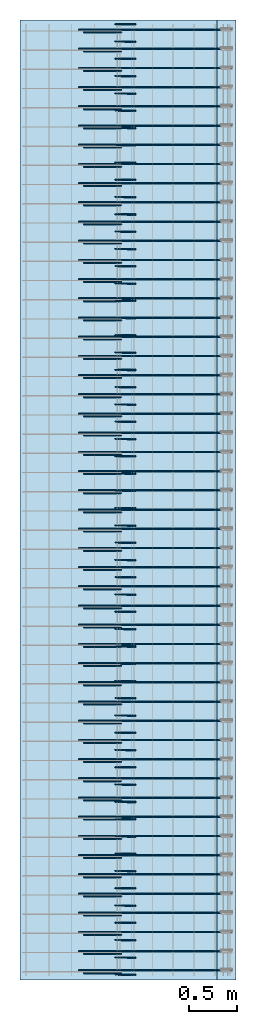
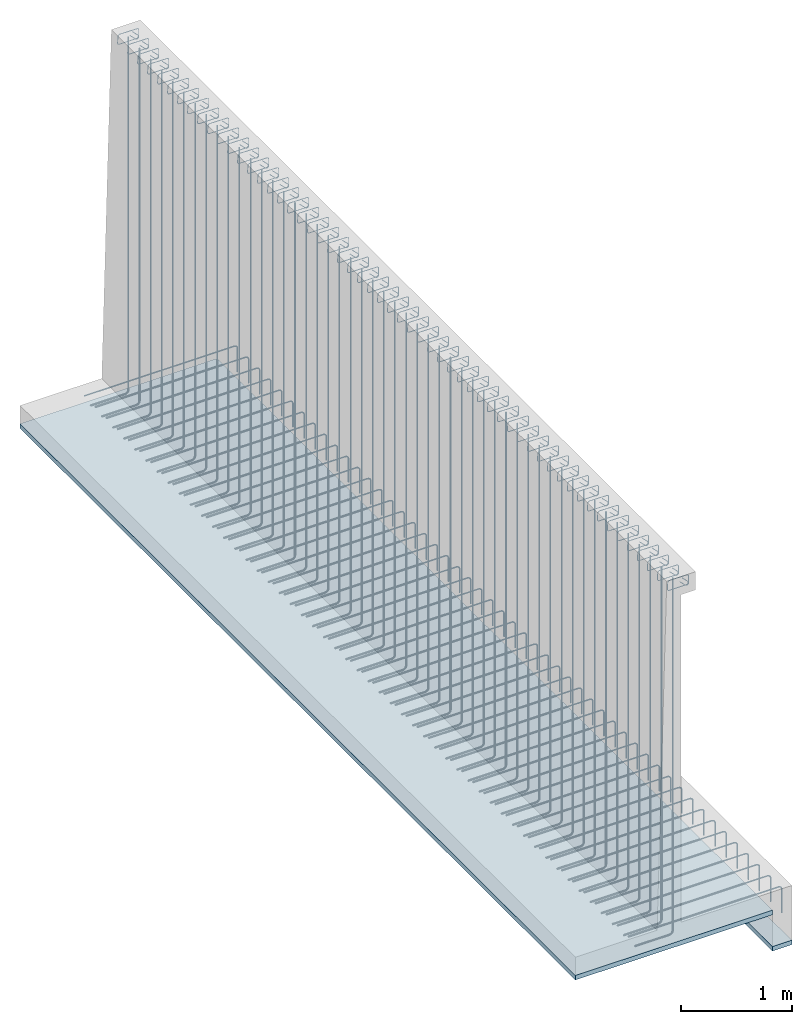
# One storey, part 1 of 4: 3 reinforcing bars, 2 slabs.
"""IFC2X3 building model written with IfcOpenShell, lengths in millimetres."""

from ifc_helpers import new_model, entity, si_unit, converted_unit, frame, frame_2d, origin, origin_with_axes, place, context, subcontext, project, spatial, rectangle, extrude, source, transform, mapped, material, layer, layer_set, layer_usage, element, save


model = new_model("IFC2X3")

# Units and contexts
model_context = context("Model", 3, precision=1e-05, world=origin())
plan_context = context("Plan", 3, precision=1e-05, world=origin())
body_context = subcontext(model_context, "Body", "Model", "MODEL_VIEW")
ifc_project = project(units=[si_unit("LENGTHUNIT", "METRE", prefix="MILLI"), converted_unit("PLANEANGLEUNIT", "DEGREE", entity("IfcPlaneAngleMeasure", 0.0174532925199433), si_unit("PLANEANGLEUNIT", "RADIAN"), dimensions=[0, 0, 0, 0, 0, 0, 0]), si_unit("AREAUNIT", "SQUARE_METRE"), si_unit("VOLUMEUNIT", "CUBIC_METRE")], contexts=[model_context, plan_context])

# Site, building, storey
site_placement = place(None, origin())
site = spatial("IfcSite", under=ifc_project, at=site_placement, Name="Leçon 3 : Ferraillage avancé", CompositionType="ELEMENT")
building_placement = place(site_placement, origin_with_axes())
building = spatial("IfcBuilding", under=site, at=building_placement, Name="01 soutènement", CompositionType="COMPLEX")
storey_placement = place(building_placement, origin_with_axes())
storey = spatial("IfcBuildingStorey", under=building, at=storey_placement, Name="corrigé", CompositionType="ELEMENT")

# Slabs
ifc_material_1 = material(Name="béton de propreté")
ifc_layer_1 = layer(ifc_material_1, 50.0)
ifc_layer_set_1 = layer_set([ifc_layer_1])
ifc_layer_usage_1 = layer_usage(ifc_layer_set_1, "AXIS3", "POSITIVE", 0.0)
slab_1_placement = place(storey_placement, frame((-19180.51127367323, 6725.403332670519, -450.0), z_axis=(0.0, 0.0, 1.0), x_axis=(1.0, 0.0, 0.0)))
element("IfcSlab", 1, at=slab_1_placement, inside=storey, material=ifc_layer_usage_1, PredefinedType="FLOOR", context=body_context, shape_type="SweptSolid", body=[
    extrude(rectangle(XDim=200.0, YDim=9999.999999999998, at=frame_2d((100.0, 4999.999999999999), x_axis=(1.0, 0.0))), origin_with_axes(), (0.0, 0.0, 1.0), 50.0),
])
ifc_material_2 = material(Name="béton de propreté")
ifc_layer_2 = layer(ifc_material_2, 50.0)
ifc_layer_set_2 = layer_set([ifc_layer_2])
ifc_layer_usage_2 = layer_usage(ifc_layer_set_2, "AXIS3", "POSITIVE", 0.0)
slab_2_placement = place(storey_placement, frame((-21230.51127367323, 6725.403332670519, -50.0), z_axis=(0.0, 0.0, 1.0), x_axis=(1.0, 0.0, 0.0)))
element("IfcSlab", 2, at=slab_2_placement, inside=storey, material=ifc_layer_usage_2, PredefinedType="FLOOR", context=body_context, shape_type="SweptSolid", body=[
    extrude(rectangle(XDim=2049.999999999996, YDim=9999.999999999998, at=frame_2d((1024.999999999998, 4999.999999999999), x_axis=(1.0, 0.0))), origin_with_axes(), (0.0, 0.0, 1.0), 50.0),
])

# Reinforcing bars
ifc_material_3 = material(Name="haute adhérence")
shared_shape_1 = source(origin(), body_context, "Body", "AdvancedSweptSolid", [
    entity("IfcSweptDiskSolid", entity("IfcPolyline", [entity("IfcCartesianPoint", [0.0, 0.0, 0.0]), entity("IfcCartesianPoint", [56.87697814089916, 0.0, -56.87697814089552]), entity("IfcCartesianPoint", [58.264752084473, 0.0, -58.08204244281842]), entity("IfcCartesianPoint", [59.78124254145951, 0.0, -59.17595725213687]), entity("IfcCartesianPoint", [61.39326700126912, 0.0, -60.12346453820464]), entity("IfcCartesianPoint", [63.05700947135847, 0.0, -60.90399752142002]), entity("IfcCartesianPoint", [64.78537321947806, 0.0, -61.52852093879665]), entity("IfcCartesianPoint", [66.59523547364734, 0.0, -61.99840553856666]), entity("IfcCartesianPoint", [68.44107073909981, 0.0, -62.29721164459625]), entity("IfcCartesianPoint", [70.27448424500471, 0.0, -62.42640687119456]), entity("IfcCartesianPoint", [71.58223554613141, 0.0, -62.42640687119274]), entity("IfcCartesianPoint", [75.12225949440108, 0.0, -61.93378880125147]), entity("IfcCartesianPoint", [78.76485298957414, 0.0, -60.73297037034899]), entity("IfcCartesianPoint", [82.1112450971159, 0.0, -58.85890736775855]), entity("IfcCartesianPoint", [84.85281374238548, 0.0, -56.56854249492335]), entity("IfcCartesianPoint", [87.14317861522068, 0.0, -53.82697384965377]), entity("IfcCartesianPoint", [89.01724161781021, 0.0, -50.48058174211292]), entity("IfcCartesianPoint", [90.21806004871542, 0.0, -46.83798824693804]), entity("IfcCartesianPoint", [90.71067811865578, 0.0, -43.29796429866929]), entity("IfcCartesianPoint", [90.71067811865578, 9.094947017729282e-13, 30.4451505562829]), entity("IfcCartesianPoint", [90.21814677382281, 0.009243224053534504, 33.98517450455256]), entity("IfcCartesianPoint", [89.0175397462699, 0.0317747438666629, 37.62776799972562]), entity("IfcCartesianPoint", [87.14380667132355, 0.06693866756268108, 40.97416010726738]), entity("IfcCartesianPoint", [84.85384501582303, 0.1099138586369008, 43.71572875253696]), entity("IfcCartesianPoint", [82.11275902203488, 0.1613551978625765, 46.00609362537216]), entity("IfcCartesianPoint", [78.76695604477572, 0.2241451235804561, 47.8801566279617]), entity("IfcCartesianPoint", [75.12500382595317, 0.2924928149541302, 49.0809750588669]), entity("IfcCartesianPoint", [71.5856030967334, 0.3589159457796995, 49.57359312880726]), entity("IfcCartesianPoint", [-103.8239188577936, 3.650786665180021, 49.57359312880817]), entity("IfcCartesianPoint", [-107.3079435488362, 3.732957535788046, 49.09696713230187]), entity("IfcCartesianPoint", [-110.8887363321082, 3.840977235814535, 47.93798691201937]), entity("IfcCartesianPoint", [-114.1883106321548, 3.966628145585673, 46.12856665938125]), entity("IfcCartesianPoint", [-116.9114684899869, 4.095922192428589, 43.90857173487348]), entity("IfcCartesianPoint", [-119.2033237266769, 4.23271037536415, 41.24598432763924]), entity("IfcCartesianPoint", [-121.0997135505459, 4.382742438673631, 37.99664956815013]), entity("IfcCartesianPoint", [-122.352982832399, 4.531204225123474, 34.44922013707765]), entity("IfcCartesianPoint", [-122.9212747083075, 4.664037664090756, 30.98053853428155]), entity("IfcCartesianPoint", [-124.8628395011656, 7.299018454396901, -42.79892359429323]), entity("IfcCartesianPoint", [-124.4493723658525, 7.427706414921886, -46.402186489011]), entity("IfcCartesianPoint", [-123.3054827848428, 7.560934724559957, -50.13257915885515]), entity("IfcCartesianPoint", [-121.4582091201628, 7.683693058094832, -53.56981249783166]), entity("IfcCartesianPoint", [-119.1732840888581, 7.784244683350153, -56.38525800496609]), entity("IfcCartesianPoint", [-116.417087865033, 7.86841246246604, -58.74195582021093]), entity("IfcCartesianPoint", [-113.0274166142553, 7.937549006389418, -60.67777905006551]), entity("IfcCartesianPoint", [-109.326008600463, 7.98186462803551, -61.91861645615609]), entity("IfcCartesianPoint", [-105.7325646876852, 8.00000000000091, -62.42640687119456]), entity("IfcCartesianPoint", [71.58223554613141, 8.0, -62.42640687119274]), entity("IfcCartesianPoint", [75.12225949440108, 8.0, -61.93378880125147]), entity("IfcCartesianPoint", [78.76485298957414, 8.0, -60.73297037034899]), entity("IfcCartesianPoint", [82.1112450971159, 8.0, -58.85890736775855]), entity("IfcCartesianPoint", [84.85281374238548, 8.0, -56.56854249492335]), entity("IfcCartesianPoint", [87.14317861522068, 8.0, -53.82697384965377]), entity("IfcCartesianPoint", [89.01724161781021, 8.0, -50.48058174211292]), entity("IfcCartesianPoint", [90.21806004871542, 8.0, -46.83798824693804]), entity("IfcCartesianPoint", [90.71067811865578, 8.0, -43.29796429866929]), entity("IfcCartesianPoint", [90.71067811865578, 8.0, -41.99021299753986]), entity("IfcCartesianPoint", [90.58148289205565, 8.0, -40.15679949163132]), entity("IfcCartesianPoint", [90.28267678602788, 8.0, -38.31096422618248]), entity("IfcCartesianPoint", [89.81279218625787, 8.0, -36.5011019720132]), entity("IfcCartesianPoint", [89.18826876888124, 8.0, -34.77273822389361]), entity("IfcCartesianPoint", [88.40773578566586, 8.0, -33.10899575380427]), entity("IfcCartesianPoint", [87.4602284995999, 8.0, -31.49697129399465]), entity("IfcCartesianPoint", [86.36631369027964, 8.0, -29.98048083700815]), entity("IfcCartesianPoint", [85.16124938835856, 8.0, -28.5927068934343]), entity("IfcCartesianPoint", [28.28427124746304, 8.0, 28.28427124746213])]), 4.0, None, 0.0, 1.0),
])
reinforcing_bar_1_placement = place(storey_placement, frame((-20115.22195179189, 6775.40333267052, 3906.426406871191), z_axis=(0.0, 0.0, 1.0), x_axis=(1.0, 0.0, 0.0)))
element("IfcReinforcingBar", 3, at=reinforcing_bar_1_placement, inside=storey, material=ifc_material_3, BarRole="NOTDEFINED", CrossSectionArea=0.503, NominalDiameter=8.0, context=body_context, shape_type="MappedRepresentation", body=[
    mapped(shared_shape_1, transform((0.0, 0.0, 0.0), x_axis=(1.0, 0.0, 0.0), y_axis=(0.0, 1.0, 0.0), z_axis=(0.0, 0.0, 1.0))),
    mapped(shared_shape_1, transform((0.0, 180.0, 0.0), x_axis=(1.0, 0.0, 0.0), y_axis=(0.0, 1.0, 0.0), z_axis=(0.0, 0.0, 1.0))),
    mapped(shared_shape_1, transform((0.0, 360.0, 0.0), x_axis=(1.0, 0.0, 0.0), y_axis=(0.0, 1.0, 0.0), z_axis=(0.0, 0.0, 1.0))),
    mapped(shared_shape_1, transform((0.0, 540.0, 0.0), x_axis=(1.0, 0.0, 0.0), y_axis=(0.0, 1.0, 0.0), z_axis=(0.0, 0.0, 1.0))),
    mapped(shared_shape_1, transform((0.0, 720.0, 0.0), x_axis=(1.0, 0.0, 0.0), y_axis=(0.0, 1.0, 0.0), z_axis=(0.0, 0.0, 1.0))),
    mapped(shared_shape_1, transform((0.0, 900.0, 0.0), x_axis=(1.0, 0.0, 0.0), y_axis=(0.0, 1.0, 0.0), z_axis=(0.0, 0.0, 1.0))),
    mapped(shared_shape_1, transform((0.0, 1080.0, 0.0), x_axis=(1.0, 0.0, 0.0), y_axis=(0.0, 1.0, 0.0), z_axis=(0.0, 0.0, 1.0))),
    mapped(shared_shape_1, transform((0.0, 1260.0, 0.0), x_axis=(1.0, 0.0, 0.0), y_axis=(0.0, 1.0, 0.0), z_axis=(0.0, 0.0, 1.0))),
    mapped(shared_shape_1, transform((0.0, 1440.000000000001, 0.0), x_axis=(1.0, 0.0, 0.0), y_axis=(0.0, 1.0, 0.0), z_axis=(0.0, 0.0, 1.0))),
    mapped(shared_shape_1, transform((0.0, 1620.000000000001, 0.0), x_axis=(1.0, 0.0, 0.0), y_axis=(0.0, 1.0, 0.0), z_axis=(0.0, 0.0, 1.0))),
    mapped(shared_shape_1, transform((0.0, 1800.000000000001, 0.0), x_axis=(1.0, 0.0, 0.0), y_axis=(0.0, 1.0, 0.0), z_axis=(0.0, 0.0, 1.0))),
    mapped(shared_shape_1, transform((0.0, 1980.000000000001, 0.0), x_axis=(1.0, 0.0, 0.0), y_axis=(0.0, 1.0, 0.0), z_axis=(0.0, 0.0, 1.0))),
    mapped(shared_shape_1, transform((0.0, 2160.000000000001, 0.0), x_axis=(1.0, 0.0, 0.0), y_axis=(0.0, 1.0, 0.0), z_axis=(0.0, 0.0, 1.0))),
    mapped(shared_shape_1, transform((0.0, 2340.000000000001, 0.0), x_axis=(1.0, 0.0, 0.0), y_axis=(0.0, 1.0, 0.0), z_axis=(0.0, 0.0, 1.0))),
    mapped(shared_shape_1, transform((0.0, 2520.000000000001, 0.0), x_axis=(1.0, 0.0, 0.0), y_axis=(0.0, 1.0, 0.0), z_axis=(0.0, 0.0, 1.0))),
    mapped(shared_shape_1, transform((0.0, 2700.000000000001, 0.0), x_axis=(1.0, 0.0, 0.0), y_axis=(0.0, 1.0, 0.0), z_axis=(0.0, 0.0, 1.0))),
    mapped(shared_shape_1, transform((0.0, 2880.000000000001, 0.0), x_axis=(1.0, 0.0, 0.0), y_axis=(0.0, 1.0, 0.0), z_axis=(0.0, 0.0, 1.0))),
    mapped(shared_shape_1, transform((0.0, 3060.000000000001, 0.0), x_axis=(1.0, 0.0, 0.0), y_axis=(0.0, 1.0, 0.0), z_axis=(0.0, 0.0, 1.0))),
    mapped(shared_shape_1, transform((0.0, 3240.000000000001, 0.0), x_axis=(1.0, 0.0, 0.0), y_axis=(0.0, 1.0, 0.0), z_axis=(0.0, 0.0, 1.0))),
    mapped(shared_shape_1, transform((0.0, 3420.000000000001, 0.0), x_axis=(1.0, 0.0, 0.0), y_axis=(0.0, 1.0, 0.0), z_axis=(0.0, 0.0, 1.0))),
    mapped(shared_shape_1, transform((0.0, 3600.000000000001, 0.0), x_axis=(1.0, 0.0, 0.0), y_axis=(0.0, 1.0, 0.0), z_axis=(0.0, 0.0, 1.0))),
    mapped(shared_shape_1, transform((0.0, 3780.000000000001, 0.0), x_axis=(1.0, 0.0, 0.0), y_axis=(0.0, 1.0, 0.0), z_axis=(0.0, 0.0, 1.0))),
    mapped(shared_shape_1, transform((0.0, 3960.000000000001, 0.0), x_axis=(1.0, 0.0, 0.0), y_axis=(0.0, 1.0, 0.0), z_axis=(0.0, 0.0, 1.0))),
    mapped(shared_shape_1, transform((0.0, 4140.000000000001, 0.0), x_axis=(1.0, 0.0, 0.0), y_axis=(0.0, 1.0, 0.0), z_axis=(0.0, 0.0, 1.0))),
    mapped(shared_shape_1, transform((0.0, 4320.000000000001, 0.0), x_axis=(1.0, 0.0, 0.0), y_axis=(0.0, 1.0, 0.0), z_axis=(0.0, 0.0, 1.0))),
    mapped(shared_shape_1, transform((0.0, 4500.000000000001, 0.0), x_axis=(1.0, 0.0, 0.0), y_axis=(0.0, 1.0, 0.0), z_axis=(0.0, 0.0, 1.0))),
    mapped(shared_shape_1, transform((0.0, 4680.000000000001, 0.0), x_axis=(1.0, 0.0, 0.0), y_axis=(0.0, 1.0, 0.0), z_axis=(0.0, 0.0, 1.0))),
    mapped(shared_shape_1, transform((0.0, 4860.000000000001, 0.0), x_axis=(1.0, 0.0, 0.0), y_axis=(0.0, 1.0, 0.0), z_axis=(0.0, 0.0, 1.0))),
    mapped(shared_shape_1, transform((0.0, 5040.000000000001, 0.0), x_axis=(1.0, 0.0, 0.0), y_axis=(0.0, 1.0, 0.0), z_axis=(0.0, 0.0, 1.0))),
    mapped(shared_shape_1, transform((0.0, 5220.000000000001, 0.0), x_axis=(1.0, 0.0, 0.0), y_axis=(0.0, 1.0, 0.0), z_axis=(0.0, 0.0, 1.0))),
    mapped(shared_shape_1, transform((0.0, 5400.000000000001, 0.0), x_axis=(1.0, 0.0, 0.0), y_axis=(0.0, 1.0, 0.0), z_axis=(0.0, 0.0, 1.0))),
    mapped(shared_shape_1, transform((0.0, 5580.000000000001, 0.0), x_axis=(1.0, 0.0, 0.0), y_axis=(0.0, 1.0, 0.0), z_axis=(0.0, 0.0, 1.0))),
    mapped(shared_shape_1, transform((0.0, 5760.000000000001, 0.0), x_axis=(1.0, 0.0, 0.0), y_axis=(0.0, 1.0, 0.0), z_axis=(0.0, 0.0, 1.0))),
    mapped(shared_shape_1, transform((0.0, 5940.000000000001, 0.0), x_axis=(1.0, 0.0, 0.0), y_axis=(0.0, 1.0, 0.0), z_axis=(0.0, 0.0, 1.0))),
    mapped(shared_shape_1, transform((0.0, 6120.000000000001, 0.0), x_axis=(1.0, 0.0, 0.0), y_axis=(0.0, 1.0, 0.0), z_axis=(0.0, 0.0, 1.0))),
    mapped(shared_shape_1, transform((0.0, 6300.000000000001, 0.0), x_axis=(1.0, 0.0, 0.0), y_axis=(0.0, 1.0, 0.0), z_axis=(0.0, 0.0, 1.0))),
    mapped(shared_shape_1, transform((0.0, 6480.000000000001, 0.0), x_axis=(1.0, 0.0, 0.0), y_axis=(0.0, 1.0, 0.0), z_axis=(0.0, 0.0, 1.0))),
    mapped(shared_shape_1, transform((0.0, 6660.000000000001, 0.0), x_axis=(1.0, 0.0, 0.0), y_axis=(0.0, 1.0, 0.0), z_axis=(0.0, 0.0, 1.0))),
    mapped(shared_shape_1, transform((0.0, 6840.000000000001, 0.0), x_axis=(1.0, 0.0, 0.0), y_axis=(0.0, 1.0, 0.0), z_axis=(0.0, 0.0, 1.0))),
    mapped(shared_shape_1, transform((0.0, 7020.000000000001, 0.0), x_axis=(1.0, 0.0, 0.0), y_axis=(0.0, 1.0, 0.0), z_axis=(0.0, 0.0, 1.0))),
    mapped(shared_shape_1, transform((0.0, 7200.000000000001, 0.0), x_axis=(1.0, 0.0, 0.0), y_axis=(0.0, 1.0, 0.0), z_axis=(0.0, 0.0, 1.0))),
    mapped(shared_shape_1, transform((0.0, 7380.000000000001, 0.0), x_axis=(1.0, 0.0, 0.0), y_axis=(0.0, 1.0, 0.0), z_axis=(0.0, 0.0, 1.0))),
    mapped(shared_shape_1, transform((0.0, 7560.000000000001, 0.0), x_axis=(1.0, 0.0, 0.0), y_axis=(0.0, 1.0, 0.0), z_axis=(0.0, 0.0, 1.0))),
    mapped(shared_shape_1, transform((0.0, 7740.000000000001, 0.0), x_axis=(1.0, 0.0, 0.0), y_axis=(0.0, 1.0, 0.0), z_axis=(0.0, 0.0, 1.0))),
    mapped(shared_shape_1, transform((0.0, 7920.000000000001, 0.0), x_axis=(1.0, 0.0, 0.0), y_axis=(0.0, 1.0, 0.0), z_axis=(0.0, 0.0, 1.0))),
    mapped(shared_shape_1, transform((0.0, 8100.000000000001, 0.0), x_axis=(1.0, 0.0, 0.0), y_axis=(0.0, 1.0, 0.0), z_axis=(0.0, 0.0, 1.0))),
    mapped(shared_shape_1, transform((0.0, 8280.0, 0.0), x_axis=(1.0, 0.0, 0.0), y_axis=(0.0, 1.0, 0.0), z_axis=(0.0, 0.0, 1.0))),
    mapped(shared_shape_1, transform((0.0, 8460.0, 0.0), x_axis=(1.0, 0.0, 0.0), y_axis=(0.0, 1.0, 0.0), z_axis=(0.0, 0.0, 1.0))),
    mapped(shared_shape_1, transform((0.0, 8640.0, 0.0), x_axis=(1.0, 0.0, 0.0), y_axis=(0.0, 1.0, 0.0), z_axis=(0.0, 0.0, 1.0))),
    mapped(shared_shape_1, transform((0.0, 8820.0, 0.0), x_axis=(1.0, 0.0, 0.0), y_axis=(0.0, 1.0, 0.0), z_axis=(0.0, 0.0, 1.0))),
    mapped(shared_shape_1, transform((0.0, 9000.0, 0.0), x_axis=(1.0, 0.0, 0.0), y_axis=(0.0, 1.0, 0.0), z_axis=(0.0, 0.0, 1.0))),
    mapped(shared_shape_1, transform((0.0, 9180.0, 0.0), x_axis=(1.0, 0.0, 0.0), y_axis=(0.0, 1.0, 0.0), z_axis=(0.0, 0.0, 1.0))),
    mapped(shared_shape_1, transform((0.0, 9360.0, 0.0), x_axis=(1.0, 0.0, 0.0), y_axis=(0.0, 1.0, 0.0), z_axis=(0.0, 0.0, 1.0))),
    mapped(shared_shape_1, transform((0.0, 9540.0, 0.0), x_axis=(1.0, 0.0, 0.0), y_axis=(0.0, 1.0, 0.0), z_axis=(0.0, 0.0, 1.0))),
    mapped(shared_shape_1, transform((0.0, 9720.0, 0.0), x_axis=(1.0, 0.0, 0.0), y_axis=(0.0, 1.0, 0.0), z_axis=(0.0, 0.0, 1.0))),
    mapped(shared_shape_1, transform((0.0, 9900.0, 0.0), x_axis=(1.0, 0.0, 0.0), y_axis=(0.0, 1.0, 0.0), z_axis=(0.0, 0.0, 1.0))),
])
ifc_material_4 = material(Name="haute adhérence")
shared_shape_2 = source(origin(), body_context, "Body", "AdvancedSweptSolid", [
    entity("IfcSweptDiskSolid", entity("IfcPolyline", [entity("IfcCartesianPoint", [0.0, 0.0, 0.0]), entity("IfcCartesianPoint", [1559.525225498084, -9.094947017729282e-13, -4.547473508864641e-13]), entity("IfcCartesianPoint", [1565.720267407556, -9.094947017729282e-13, -0.8620816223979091]), entity("IfcCartesianPoint", [1572.09480602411, -9.094947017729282e-13, -2.963513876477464]), entity("IfcCartesianPoint", [1577.950992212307, -9.094947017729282e-13, -6.243124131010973]), entity("IfcCartesianPoint", [1582.748737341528, -9.094947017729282e-13, -10.25126265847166]), entity("IfcCartesianPoint", [1586.756875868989, -9.094947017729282e-13, -15.04900778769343]), entity("IfcCartesianPoint", [1590.036486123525, -9.094947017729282e-13, -20.90519397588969]), entity("IfcCartesianPoint", [1592.137918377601, -9.094947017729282e-13, -27.27973259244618]), entity("IfcCartesianPoint", [1593.0, -9.094947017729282e-13, -33.47477450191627]), entity("IfcCartesianPoint", [1593.0, 0.0, -293.0])]), 7.0, None, 0.0, 1.0),
])
reinforcing_bar_2_placement = place(storey_placement, frame((-20620.51127367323, 6825.40333267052, 152.9999999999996), z_axis=(0.0, 0.0, 1.0), x_axis=(1.0, 0.0, 0.0)))
element("IfcReinforcingBar", 4, at=reinforcing_bar_2_placement, inside=storey, material=ifc_material_4, BarRole="NOTDEFINED", CrossSectionArea=0.503, NominalDiameter=14.0, context=body_context, shape_type="MappedRepresentation", body=[
    mapped(shared_shape_2, transform((0.0, 0.0, 0.0), x_axis=(1.0, 0.0, 0.0), y_axis=(0.0, 1.0, 0.0), z_axis=(0.0, 0.0, 1.0))),
    mapped(shared_shape_2, transform((0.0, 200.0, 0.0), x_axis=(1.0, 0.0, 0.0), y_axis=(0.0, 1.0, 0.0), z_axis=(0.0, 0.0, 1.0))),
    mapped(shared_shape_2, transform((0.0, 400.0, 0.0), x_axis=(1.0, 0.0, 0.0), y_axis=(0.0, 1.0, 0.0), z_axis=(0.0, 0.0, 1.0))),
    mapped(shared_shape_2, transform((0.0, 600.0, 0.0), x_axis=(1.0, 0.0, 0.0), y_axis=(0.0, 1.0, 0.0), z_axis=(0.0, 0.0, 1.0))),
    mapped(shared_shape_2, transform((0.0, 800.0, 0.0), x_axis=(1.0, 0.0, 0.0), y_axis=(0.0, 1.0, 0.0), z_axis=(0.0, 0.0, 1.0))),
    mapped(shared_shape_2, transform((0.0, 1000.0, 0.0), x_axis=(1.0, 0.0, 0.0), y_axis=(0.0, 1.0, 0.0), z_axis=(0.0, 0.0, 1.0))),
    mapped(shared_shape_2, transform((0.0, 1200.0, 0.0), x_axis=(1.0, 0.0, 0.0), y_axis=(0.0, 1.0, 0.0), z_axis=(0.0, 0.0, 1.0))),
    mapped(shared_shape_2, transform((0.0, 1400.000000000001, 0.0), x_axis=(1.0, 0.0, 0.0), y_axis=(0.0, 1.0, 0.0), z_axis=(0.0, 0.0, 1.0))),
    mapped(shared_shape_2, transform((0.0, 1600.000000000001, 0.0), x_axis=(1.0, 0.0, 0.0), y_axis=(0.0, 1.0, 0.0), z_axis=(0.0, 0.0, 1.0))),
    mapped(shared_shape_2, transform((0.0, 1800.000000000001, 0.0), x_axis=(1.0, 0.0, 0.0), y_axis=(0.0, 1.0, 0.0), z_axis=(0.0, 0.0, 1.0))),
    mapped(shared_shape_2, transform((0.0, 2000.000000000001, 0.0), x_axis=(1.0, 0.0, 0.0), y_axis=(0.0, 1.0, 0.0), z_axis=(0.0, 0.0, 1.0))),
    mapped(shared_shape_2, transform((0.0, 2200.000000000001, 0.0), x_axis=(1.0, 0.0, 0.0), y_axis=(0.0, 1.0, 0.0), z_axis=(0.0, 0.0, 1.0))),
    mapped(shared_shape_2, transform((0.0, 2400.000000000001, 0.0), x_axis=(1.0, 0.0, 0.0), y_axis=(0.0, 1.0, 0.0), z_axis=(0.0, 0.0, 1.0))),
    mapped(shared_shape_2, transform((0.0, 2600.000000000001, 0.0), x_axis=(1.0, 0.0, 0.0), y_axis=(0.0, 1.0, 0.0), z_axis=(0.0, 0.0, 1.0))),
    mapped(shared_shape_2, transform((0.0, 2800.000000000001, 0.0), x_axis=(1.0, 0.0, 0.0), y_axis=(0.0, 1.0, 0.0), z_axis=(0.0, 0.0, 1.0))),
    mapped(shared_shape_2, transform((0.0, 3000.000000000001, 0.0), x_axis=(1.0, 0.0, 0.0), y_axis=(0.0, 1.0, 0.0), z_axis=(0.0, 0.0, 1.0))),
    mapped(shared_shape_2, transform((0.0, 3200.000000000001, 0.0), x_axis=(1.0, 0.0, 0.0), y_axis=(0.0, 1.0, 0.0), z_axis=(0.0, 0.0, 1.0))),
    mapped(shared_shape_2, transform((0.0, 3400.000000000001, 0.0), x_axis=(1.0, 0.0, 0.0), y_axis=(0.0, 1.0, 0.0), z_axis=(0.0, 0.0, 1.0))),
    mapped(shared_shape_2, transform((0.0, 3600.000000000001, 0.0), x_axis=(1.0, 0.0, 0.0), y_axis=(0.0, 1.0, 0.0), z_axis=(0.0, 0.0, 1.0))),
    mapped(shared_shape_2, transform((0.0, 3800.000000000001, 0.0), x_axis=(1.0, 0.0, 0.0), y_axis=(0.0, 1.0, 0.0), z_axis=(0.0, 0.0, 1.0))),
    mapped(shared_shape_2, transform((0.0, 4000.000000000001, 0.0), x_axis=(1.0, 0.0, 0.0), y_axis=(0.0, 1.0, 0.0), z_axis=(0.0, 0.0, 1.0))),
    mapped(shared_shape_2, transform((0.0, 4200.000000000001, 0.0), x_axis=(1.0, 0.0, 0.0), y_axis=(0.0, 1.0, 0.0), z_axis=(0.0, 0.0, 1.0))),
    mapped(shared_shape_2, transform((0.0, 4400.000000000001, 0.0), x_axis=(1.0, 0.0, 0.0), y_axis=(0.0, 1.0, 0.0), z_axis=(0.0, 0.0, 1.0))),
    mapped(shared_shape_2, transform((0.0, 4600.000000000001, 0.0), x_axis=(1.0, 0.0, 0.0), y_axis=(0.0, 1.0, 0.0), z_axis=(0.0, 0.0, 1.0))),
    mapped(shared_shape_2, transform((0.0, 4800.000000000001, 0.0), x_axis=(1.0, 0.0, 0.0), y_axis=(0.0, 1.0, 0.0), z_axis=(0.0, 0.0, 1.0))),
    mapped(shared_shape_2, transform((0.0, 5000.000000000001, 0.0), x_axis=(1.0, 0.0, 0.0), y_axis=(0.0, 1.0, 0.0), z_axis=(0.0, 0.0, 1.0))),
    mapped(shared_shape_2, transform((0.0, 5200.000000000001, 0.0), x_axis=(1.0, 0.0, 0.0), y_axis=(0.0, 1.0, 0.0), z_axis=(0.0, 0.0, 1.0))),
    mapped(shared_shape_2, transform((0.0, 5400.000000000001, 0.0), x_axis=(1.0, 0.0, 0.0), y_axis=(0.0, 1.0, 0.0), z_axis=(0.0, 0.0, 1.0))),
    mapped(shared_shape_2, transform((0.0, 5600.000000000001, 0.0), x_axis=(1.0, 0.0, 0.0), y_axis=(0.0, 1.0, 0.0), z_axis=(0.0, 0.0, 1.0))),
    mapped(shared_shape_2, transform((0.0, 5800.000000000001, 0.0), x_axis=(1.0, 0.0, 0.0), y_axis=(0.0, 1.0, 0.0), z_axis=(0.0, 0.0, 1.0))),
    mapped(shared_shape_2, transform((0.0, 6000.000000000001, 0.0), x_axis=(1.0, 0.0, 0.0), y_axis=(0.0, 1.0, 0.0), z_axis=(0.0, 0.0, 1.0))),
    mapped(shared_shape_2, transform((0.0, 6200.000000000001, 0.0), x_axis=(1.0, 0.0, 0.0), y_axis=(0.0, 1.0, 0.0), z_axis=(0.0, 0.0, 1.0))),
    mapped(shared_shape_2, transform((0.0, 6400.000000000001, 0.0), x_axis=(1.0, 0.0, 0.0), y_axis=(0.0, 1.0, 0.0), z_axis=(0.0, 0.0, 1.0))),
    mapped(shared_shape_2, transform((0.0, 6600.000000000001, 0.0), x_axis=(1.0, 0.0, 0.0), y_axis=(0.0, 1.0, 0.0), z_axis=(0.0, 0.0, 1.0))),
    mapped(shared_shape_2, transform((0.0, 6800.000000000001, 0.0), x_axis=(1.0, 0.0, 0.0), y_axis=(0.0, 1.0, 0.0), z_axis=(0.0, 0.0, 1.0))),
    mapped(shared_shape_2, transform((0.0, 7000.000000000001, 0.0), x_axis=(1.0, 0.0, 0.0), y_axis=(0.0, 1.0, 0.0), z_axis=(0.0, 0.0, 1.0))),
    mapped(shared_shape_2, transform((0.0, 7200.000000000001, 0.0), x_axis=(1.0, 0.0, 0.0), y_axis=(0.0, 1.0, 0.0), z_axis=(0.0, 0.0, 1.0))),
    mapped(shared_shape_2, transform((0.0, 7400.000000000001, 0.0), x_axis=(1.0, 0.0, 0.0), y_axis=(0.0, 1.0, 0.0), z_axis=(0.0, 0.0, 1.0))),
    mapped(shared_shape_2, transform((0.0, 7600.000000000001, 0.0), x_axis=(1.0, 0.0, 0.0), y_axis=(0.0, 1.0, 0.0), z_axis=(0.0, 0.0, 1.0))),
    mapped(shared_shape_2, transform((0.0, 7800.000000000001, 0.0), x_axis=(1.0, 0.0, 0.0), y_axis=(0.0, 1.0, 0.0), z_axis=(0.0, 0.0, 1.0))),
    mapped(shared_shape_2, transform((0.0, 8000.000000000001, 0.0), x_axis=(1.0, 0.0, 0.0), y_axis=(0.0, 1.0, 0.0), z_axis=(0.0, 0.0, 1.0))),
    mapped(shared_shape_2, transform((0.0, 8200.0, 0.0), x_axis=(1.0, 0.0, 0.0), y_axis=(0.0, 1.0, 0.0), z_axis=(0.0, 0.0, 1.0))),
    mapped(shared_shape_2, transform((0.0, 8400.0, 0.0), x_axis=(1.0, 0.0, 0.0), y_axis=(0.0, 1.0, 0.0), z_axis=(0.0, 0.0, 1.0))),
    mapped(shared_shape_2, transform((0.0, 8600.0, 0.0), x_axis=(1.0, 0.0, 0.0), y_axis=(0.0, 1.0, 0.0), z_axis=(0.0, 0.0, 1.0))),
    mapped(shared_shape_2, transform((0.0, 8800.0, 0.0), x_axis=(1.0, 0.0, 0.0), y_axis=(0.0, 1.0, 0.0), z_axis=(0.0, 0.0, 1.0))),
    mapped(shared_shape_2, transform((0.0, 9000.0, 0.0), x_axis=(1.0, 0.0, 0.0), y_axis=(0.0, 1.0, 0.0), z_axis=(0.0, 0.0, 1.0))),
    mapped(shared_shape_2, transform((0.0, 9200.0, 0.0), x_axis=(1.0, 0.0, 0.0), y_axis=(0.0, 1.0, 0.0), z_axis=(0.0, 0.0, 1.0))),
    mapped(shared_shape_2, transform((0.0, 9400.0, 0.0), x_axis=(1.0, 0.0, 0.0), y_axis=(0.0, 1.0, 0.0), z_axis=(0.0, 0.0, 1.0))),
    mapped(shared_shape_2, transform((0.0, 9600.0, 0.0), x_axis=(1.0, 0.0, 0.0), y_axis=(0.0, 1.0, 0.0), z_axis=(0.0, 0.0, 1.0))),
    mapped(shared_shape_2, transform((0.0, 9800.0, 0.0), x_axis=(1.0, 0.0, 0.0), y_axis=(0.0, 1.0, 0.0), z_axis=(0.0, 0.0, 1.0))),
])
ifc_material_5 = material(Name="haute adhérence")
shared_shape_3 = source(origin(), body_context, "Body", "AdvancedSweptSolid", [
    entity("IfcSweptDiskSolid", entity("IfcPolyline", [entity("IfcCartesianPoint", [0.0, 0.0, 0.0]), entity("IfcCartesianPoint", [0.0, 0.0, -3879.525225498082]), entity("IfcCartesianPoint", [-0.8620816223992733, 0.0, -3885.720267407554]), entity("IfcCartesianPoint", [-2.963513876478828, 0.0, -3892.094806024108]), entity("IfcCartesianPoint", [-6.243124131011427, 0.0, -3897.950992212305]), entity("IfcCartesianPoint", [-10.25126265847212, 0.0, -3902.748737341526]), entity("IfcCartesianPoint", [-15.04900778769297, 0.0, -3906.756875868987]), entity("IfcCartesianPoint", [-20.90519397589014, 0.0, -3910.036486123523]), entity("IfcCartesianPoint", [-27.27973259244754, 0.0, -3912.137918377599]), entity("IfcCartesianPoint", [-33.47477450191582, 0.0, -3912.999999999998]), entity("IfcCartesianPoint", [-393.0, 0.0, -3912.999999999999])]), 7.0, None, 0.0, 1.0),
])
reinforcing_bar_3_placement = place(storey_placement, frame((-20177.51127367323, 6797.403332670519, 3959.999999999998), z_axis=(0.0, 0.0, 1.0), x_axis=(1.0, 0.0, 0.0)))
element("IfcReinforcingBar", 5, at=reinforcing_bar_3_placement, inside=storey, material=ifc_material_5, BarRole="NOTDEFINED", CrossSectionArea=0.503, NominalDiameter=14.0, context=body_context, shape_type="MappedRepresentation", body=[
    mapped(shared_shape_3, transform((0.0, 0.0, 0.0), x_axis=(1.0, 0.0, 0.0), y_axis=(0.0, 1.0, 0.0), z_axis=(0.0, 0.0, 1.0))),
    mapped(shared_shape_3, transform((0.0, 200.0, 0.0), x_axis=(1.0, 0.0, 0.0), y_axis=(0.0, 1.0, 0.0), z_axis=(0.0, 0.0, 1.0))),
    mapped(shared_shape_3, transform((0.0, 400.0, 0.0), x_axis=(1.0, 0.0, 0.0), y_axis=(0.0, 1.0, 0.0), z_axis=(0.0, 0.0, 1.0))),
    mapped(shared_shape_3, transform((0.0, 600.0, 0.0), x_axis=(1.0, 0.0, 0.0), y_axis=(0.0, 1.0, 0.0), z_axis=(0.0, 0.0, 1.0))),
    mapped(shared_shape_3, transform((0.0, 800.0, 0.0), x_axis=(1.0, 0.0, 0.0), y_axis=(0.0, 1.0, 0.0), z_axis=(0.0, 0.0, 1.0))),
    mapped(shared_shape_3, transform((0.0, 1000.0, 0.0), x_axis=(1.0, 0.0, 0.0), y_axis=(0.0, 1.0, 0.0), z_axis=(0.0, 0.0, 1.0))),
    mapped(shared_shape_3, transform((0.0, 1200.0, 0.0), x_axis=(1.0, 0.0, 0.0), y_axis=(0.0, 1.0, 0.0), z_axis=(0.0, 0.0, 1.0))),
    mapped(shared_shape_3, transform((0.0, 1400.0, 0.0), x_axis=(1.0, 0.0, 0.0), y_axis=(0.0, 1.0, 0.0), z_axis=(0.0, 0.0, 1.0))),
    mapped(shared_shape_3, transform((0.0, 1600.0, 0.0), x_axis=(1.0, 0.0, 0.0), y_axis=(0.0, 1.0, 0.0), z_axis=(0.0, 0.0, 1.0))),
    mapped(shared_shape_3, transform((0.0, 1800.0, 0.0), x_axis=(1.0, 0.0, 0.0), y_axis=(0.0, 1.0, 0.0), z_axis=(0.0, 0.0, 1.0))),
    mapped(shared_shape_3, transform((0.0, 2000.0, 0.0), x_axis=(1.0, 0.0, 0.0), y_axis=(0.0, 1.0, 0.0), z_axis=(0.0, 0.0, 1.0))),
    mapped(shared_shape_3, transform((0.0, 2200.0, 0.0), x_axis=(1.0, 0.0, 0.0), y_axis=(0.0, 1.0, 0.0), z_axis=(0.0, 0.0, 1.0))),
    mapped(shared_shape_3, transform((0.0, 2400.0, 0.0), x_axis=(1.0, 0.0, 0.0), y_axis=(0.0, 1.0, 0.0), z_axis=(0.0, 0.0, 1.0))),
    mapped(shared_shape_3, transform((0.0, 2600.0, 0.0), x_axis=(1.0, 0.0, 0.0), y_axis=(0.0, 1.0, 0.0), z_axis=(0.0, 0.0, 1.0))),
    mapped(shared_shape_3, transform((0.0, 2800.0, 0.0), x_axis=(1.0, 0.0, 0.0), y_axis=(0.0, 1.0, 0.0), z_axis=(0.0, 0.0, 1.0))),
    mapped(shared_shape_3, transform((0.0, 3000.0, 0.0), x_axis=(1.0, 0.0, 0.0), y_axis=(0.0, 1.0, 0.0), z_axis=(0.0, 0.0, 1.0))),
    mapped(shared_shape_3, transform((0.0, 3200.0, 0.0), x_axis=(1.0, 0.0, 0.0), y_axis=(0.0, 1.0, 0.0), z_axis=(0.0, 0.0, 1.0))),
    mapped(shared_shape_3, transform((0.0, 3400.0, 0.0), x_axis=(1.0, 0.0, 0.0), y_axis=(0.0, 1.0, 0.0), z_axis=(0.0, 0.0, 1.0))),
    mapped(shared_shape_3, transform((0.0, 3600.0, 0.0), x_axis=(1.0, 0.0, 0.0), y_axis=(0.0, 1.0, 0.0), z_axis=(0.0, 0.0, 1.0))),
    mapped(shared_shape_3, transform((0.0, 3800.0, 0.0), x_axis=(1.0, 0.0, 0.0), y_axis=(0.0, 1.0, 0.0), z_axis=(0.0, 0.0, 1.0))),
    mapped(shared_shape_3, transform((0.0, 4000.0, 0.0), x_axis=(1.0, 0.0, 0.0), y_axis=(0.0, 1.0, 0.0), z_axis=(0.0, 0.0, 1.0))),
    mapped(shared_shape_3, transform((0.0, 4200.0, 0.0), x_axis=(1.0, 0.0, 0.0), y_axis=(0.0, 1.0, 0.0), z_axis=(0.0, 0.0, 1.0))),
    mapped(shared_shape_3, transform((0.0, 4400.0, 0.0), x_axis=(1.0, 0.0, 0.0), y_axis=(0.0, 1.0, 0.0), z_axis=(0.0, 0.0, 1.0))),
    mapped(shared_shape_3, transform((0.0, 4600.0, 0.0), x_axis=(1.0, 0.0, 0.0), y_axis=(0.0, 1.0, 0.0), z_axis=(0.0, 0.0, 1.0))),
    mapped(shared_shape_3, transform((0.0, 4800.0, 0.0), x_axis=(1.0, 0.0, 0.0), y_axis=(0.0, 1.0, 0.0), z_axis=(0.0, 0.0, 1.0))),
    mapped(shared_shape_3, transform((0.0, 5000.0, 0.0), x_axis=(1.0, 0.0, 0.0), y_axis=(0.0, 1.0, 0.0), z_axis=(0.0, 0.0, 1.0))),
    mapped(shared_shape_3, transform((0.0, 5200.0, 0.0), x_axis=(1.0, 0.0, 0.0), y_axis=(0.0, 1.0, 0.0), z_axis=(0.0, 0.0, 1.0))),
    mapped(shared_shape_3, transform((0.0, 5400.0, 0.0), x_axis=(1.0, 0.0, 0.0), y_axis=(0.0, 1.0, 0.0), z_axis=(0.0, 0.0, 1.0))),
    mapped(shared_shape_3, transform((0.0, 5600.0, 0.0), x_axis=(1.0, 0.0, 0.0), y_axis=(0.0, 1.0, 0.0), z_axis=(0.0, 0.0, 1.0))),
    mapped(shared_shape_3, transform((0.0, 5800.0, 0.0), x_axis=(1.0, 0.0, 0.0), y_axis=(0.0, 1.0, 0.0), z_axis=(0.0, 0.0, 1.0))),
    mapped(shared_shape_3, transform((0.0, 6000.0, 0.0), x_axis=(1.0, 0.0, 0.0), y_axis=(0.0, 1.0, 0.0), z_axis=(0.0, 0.0, 1.0))),
    mapped(shared_shape_3, transform((0.0, 6200.0, 0.0), x_axis=(1.0, 0.0, 0.0), y_axis=(0.0, 1.0, 0.0), z_axis=(0.0, 0.0, 1.0))),
    mapped(shared_shape_3, transform((0.0, 6400.0, 0.0), x_axis=(1.0, 0.0, 0.0), y_axis=(0.0, 1.0, 0.0), z_axis=(0.0, 0.0, 1.0))),
    mapped(shared_shape_3, transform((0.0, 6600.0, 0.0), x_axis=(1.0, 0.0, 0.0), y_axis=(0.0, 1.0, 0.0), z_axis=(0.0, 0.0, 1.0))),
    mapped(shared_shape_3, transform((0.0, 6800.0, 0.0), x_axis=(1.0, 0.0, 0.0), y_axis=(0.0, 1.0, 0.0), z_axis=(0.0, 0.0, 1.0))),
    mapped(shared_shape_3, transform((0.0, 7000.0, 0.0), x_axis=(1.0, 0.0, 0.0), y_axis=(0.0, 1.0, 0.0), z_axis=(0.0, 0.0, 1.0))),
    mapped(shared_shape_3, transform((0.0, 7200.0, 0.0), x_axis=(1.0, 0.0, 0.0), y_axis=(0.0, 1.0, 0.0), z_axis=(0.0, 0.0, 1.0))),
    mapped(shared_shape_3, transform((0.0, 7400.0, 0.0), x_axis=(1.0, 0.0, 0.0), y_axis=(0.0, 1.0, 0.0), z_axis=(0.0, 0.0, 1.0))),
    mapped(shared_shape_3, transform((0.0, 7600.0, 0.0), x_axis=(1.0, 0.0, 0.0), y_axis=(0.0, 1.0, 0.0), z_axis=(0.0, 0.0, 1.0))),
    mapped(shared_shape_3, transform((0.0, 7800.0, 0.0), x_axis=(1.0, 0.0, 0.0), y_axis=(0.0, 1.0, 0.0), z_axis=(0.0, 0.0, 1.0))),
    mapped(shared_shape_3, transform((0.0, 8000.0, 0.0), x_axis=(1.0, 0.0, 0.0), y_axis=(0.0, 1.0, 0.0), z_axis=(0.0, 0.0, 1.0))),
    mapped(shared_shape_3, transform((0.0, 8200.0, 0.0), x_axis=(1.0, 0.0, 0.0), y_axis=(0.0, 1.0, 0.0), z_axis=(0.0, 0.0, 1.0))),
    mapped(shared_shape_3, transform((0.0, 8400.0, 0.0), x_axis=(1.0, 0.0, 0.0), y_axis=(0.0, 1.0, 0.0), z_axis=(0.0, 0.0, 1.0))),
    mapped(shared_shape_3, transform((0.0, 8600.0, 0.0), x_axis=(1.0, 0.0, 0.0), y_axis=(0.0, 1.0, 0.0), z_axis=(0.0, 0.0, 1.0))),
    mapped(shared_shape_3, transform((0.0, 8800.0, 0.0), x_axis=(1.0, 0.0, 0.0), y_axis=(0.0, 1.0, 0.0), z_axis=(0.0, 0.0, 1.0))),
    mapped(shared_shape_3, transform((0.0, 9000.0, 0.0), x_axis=(1.0, 0.0, 0.0), y_axis=(0.0, 1.0, 0.0), z_axis=(0.0, 0.0, 1.0))),
    mapped(shared_shape_3, transform((0.0, 9200.0, 0.0), x_axis=(1.0, 0.0, 0.0), y_axis=(0.0, 1.0, 0.0), z_axis=(0.0, 0.0, 1.0))),
    mapped(shared_shape_3, transform((0.0, 9400.0, 0.0), x_axis=(1.0, 0.0, 0.0), y_axis=(0.0, 1.0, 0.0), z_axis=(0.0, 0.0, 1.0))),
    mapped(shared_shape_3, transform((0.0, 9599.999999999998, 0.0), x_axis=(1.0, 0.0, 0.0), y_axis=(0.0, 1.0, 0.0), z_axis=(0.0, 0.0, 1.0))),
    mapped(shared_shape_3, transform((0.0, 9799.999999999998, 0.0), x_axis=(1.0, 0.0, 0.0), y_axis=(0.0, 1.0, 0.0), z_axis=(0.0, 0.0, 1.0))),
])

save(model, "model.ifc")
